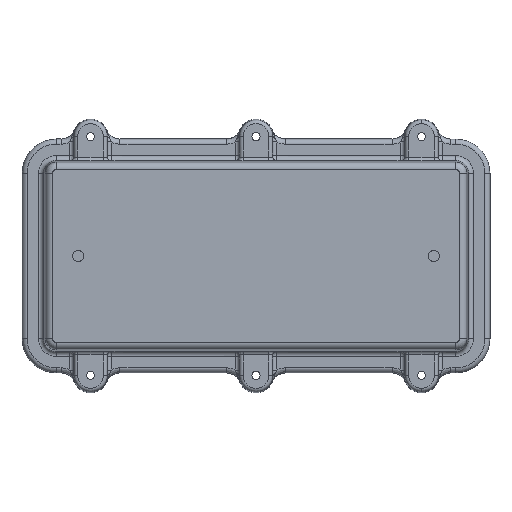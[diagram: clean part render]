
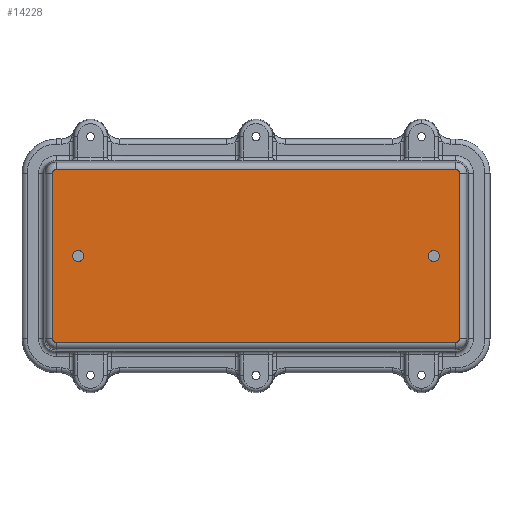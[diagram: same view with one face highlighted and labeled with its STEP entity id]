
A CAD part, front view. The second image highlights one B-rep face of the part: STEP entity #14228.
In plain terms, the highlighted planar face has unit normal (0, -1, 0).
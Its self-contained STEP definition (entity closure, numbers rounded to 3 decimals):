
#111 = EDGE_CURVE ( 'NONE', #28662, #22018, #26266, .T. ) ;
#322 = ORIENTED_EDGE ( 'NONE', *, *, #6610, .T. ) ;
#421 = CIRCLE ( 'NONE', #24519, 1.407 ) ;
#802 = ORIENTED_EDGE ( 'NONE', *, *, #11835, .T. ) ;
#909 = CARTESIAN_POINT ( 'NONE',  ( -82., -52., -34. ) ) ;
#1181 = CARTESIAN_POINT ( 'NONE',  ( -82., -52., -35.407 ) ) ;
#1335 = VERTEX_POINT ( 'NONE', #17287 ) ;
#1755 = CARTESIAN_POINT ( 'NONE',  ( -83.407, -52., 34. ) ) ;
#1760 = DIRECTION ( 'NONE',  ( 0., 0., -1. ) ) ;
#1769 = CARTESIAN_POINT ( 'NONE',  ( 73., -52., -2.35 ) ) ;
#2756 = AXIS2_PLACEMENT_3D ( 'NONE', #24100, #31685, #3470 ) ;
#2931 = CARTESIAN_POINT ( 'NONE',  ( 82., -52., -35.407 ) ) ;
#2935 = DIRECTION ( 'NONE',  ( 0., -1., 0. ) ) ;
#3098 = CIRCLE ( 'NONE', #2756, 1.407 ) ;
#3309 = CIRCLE ( 'NONE', #14472, 2.35 ) ;
#3404 = FACE_OUTER_BOUND ( 'NONE', #8844, .T. ) ;
#3447 = EDGE_CURVE ( 'NONE', #20456, #1335, #3309, .T. ) ;
#3470 = DIRECTION ( 'NONE',  ( 0., 0., -1. ) ) ;
#3609 = VECTOR ( 'NONE', #8457, 1000. ) ;
#4347 = DIRECTION ( 'NONE',  ( 0., -1., 0. ) ) ;
#4672 = CIRCLE ( 'NONE', #17831, 2.35 ) ;
#5193 = EDGE_CURVE ( 'NONE', #31756, #25976, #11228, .T. ) ;
#5871 = DIRECTION ( 'NONE',  ( 0., -1., 0. ) ) ;
#5902 = AXIS2_PLACEMENT_3D ( 'NONE', #21584, #21806, #6463 ) ;
#5913 = EDGE_CURVE ( 'NONE', #18639, #20848, #421, .T. ) ;
#6102 = DIRECTION ( 'NONE',  ( 0., 0., -1. ) ) ;
#6463 = DIRECTION ( 'NONE',  ( 0., 0., -1. ) ) ;
#6610 = EDGE_CURVE ( 'NONE', #22018, #18639, #22107, .T. ) ;
#6808 = CARTESIAN_POINT ( 'NONE',  ( 83.407, -52., -34. ) ) ;
#7674 = AXIS2_PLACEMENT_3D ( 'NONE', #30075, #14775, #32670 ) ;
#7906 = CARTESIAN_POINT ( 'NONE',  ( 83.407, -52., 34. ) ) ;
#8457 = DIRECTION ( 'NONE',  ( -1., 0., 0. ) ) ;
#8694 = DIRECTION ( 'NONE',  ( 0., 0., -1. ) ) ;
#8844 = EDGE_LOOP ( 'NONE', ( #25119, #11177, #12718, #802, #17944, #322, #25736, #18619 ) ) ;
#9096 = EDGE_CURVE ( 'NONE', #21219, #20638, #22398, .T. ) ;
#9386 = CARTESIAN_POINT ( 'NONE',  ( 83.407, -52., 34. ) ) ;
#10905 = CIRCLE ( 'NONE', #7674, 2.35 ) ;
#11177 = ORIENTED_EDGE ( 'NONE', *, *, #5193, .T. ) ;
#11228 = LINE ( 'NONE', #21546, #3609 ) ;
#11344 = EDGE_LOOP ( 'NONE', ( #13838, #19305 ) ) ;
#11434 = LINE ( 'NONE', #12662, #27791 ) ;
#11835 = EDGE_CURVE ( 'NONE', #27204, #28662, #11434, .T. ) ;
#11995 = CARTESIAN_POINT ( 'NONE',  ( -82., -52., 34. ) ) ;
#12008 = CARTESIAN_POINT ( 'NONE',  ( 82., -52., 35.407 ) ) ;
#12662 = CARTESIAN_POINT ( 'NONE',  ( -83.407, -52., -34. ) ) ;
#12718 = ORIENTED_EDGE ( 'NONE', *, *, #26891, .T. ) ;
#12897 = DIRECTION ( 'NONE',  ( 0., 0., -1. ) ) ;
#12965 = DIRECTION ( 'NONE',  ( 0., 0., -1. ) ) ;
#13838 = ORIENTED_EDGE ( 'NONE', *, *, #20267, .F. ) ;
#14228 = ADVANCED_FACE ( 'NONE', ( #16280, #30612, #3404 ), #14261, .T. ) ;
#14261 = PLANE ( 'NONE',  #30835 ) ;
#14472 = AXIS2_PLACEMENT_3D ( 'NONE', #24939, #14757, #32648 ) ;
#14481 = LINE ( 'NONE', #9386, #18055 ) ;
#14757 = DIRECTION ( 'NONE',  ( 0., -1., 0. ) ) ;
#14775 = DIRECTION ( 'NONE',  ( 0., -1., 0. ) ) ;
#14803 = DIRECTION ( 'NONE',  ( 0., 0., 1. ) ) ;
#15457 = CARTESIAN_POINT ( 'NONE',  ( -73., -52., -2.35 ) ) ;
#15718 = EDGE_CURVE ( 'NONE', #1335, #20456, #4672, .T. ) ;
#16280 = FACE_BOUND ( 'NONE', #11344, .T. ) ;
#17134 = DIRECTION ( 'NONE',  ( 1., 0., 0. ) ) ;
#17287 = CARTESIAN_POINT ( 'NONE',  ( 73., -52., 2.35 ) ) ;
#17306 = VECTOR ( 'NONE', #17134, 1000. ) ;
#17831 = AXIS2_PLACEMENT_3D ( 'NONE', #22527, #4347, #14803 ) ;
#17944 = ORIENTED_EDGE ( 'NONE', *, *, #111, .T. ) ;
#18055 = VECTOR ( 'NONE', #29842, 1000. ) ;
#18099 = CARTESIAN_POINT ( 'NONE',  ( -73., -52., 2.35 ) ) ;
#18619 = ORIENTED_EDGE ( 'NONE', *, *, #33019, .T. ) ;
#18639 = VERTEX_POINT ( 'NONE', #2931 ) ;
#18708 = CARTESIAN_POINT ( 'NONE',  ( -82., -52., 35.407 ) ) ;
#19305 = ORIENTED_EDGE ( 'NONE', *, *, #9096, .F. ) ;
#19409 = EDGE_LOOP ( 'NONE', ( #26845, #23821 ) ) ;
#20267 = EDGE_CURVE ( 'NONE', #20638, #21219, #10905, .T. ) ;
#20456 = VERTEX_POINT ( 'NONE', #1769 ) ;
#20638 = VERTEX_POINT ( 'NONE', #15457 ) ;
#20848 = VERTEX_POINT ( 'NONE', #6808 ) ;
#21093 = CARTESIAN_POINT ( 'NONE',  ( 82., -52., -34. ) ) ;
#21219 = VERTEX_POINT ( 'NONE', #18099 ) ;
#21461 = CARTESIAN_POINT ( 'NONE',  ( 82., -52., 34. ) ) ;
#21546 = CARTESIAN_POINT ( 'NONE',  ( -82., -52., 35.407 ) ) ;
#21584 = CARTESIAN_POINT ( 'NONE',  ( -73., -52., 0. ) ) ;
#21686 = DIRECTION ( 'NONE',  ( 0., -1., 0. ) ) ;
#21806 = DIRECTION ( 'NONE',  ( 0., -1., 0. ) ) ;
#22018 = VERTEX_POINT ( 'NONE', #1181 ) ;
#22107 = LINE ( 'NONE', #29526, #17306 ) ;
#22163 = VERTEX_POINT ( 'NONE', #7906 ) ;
#22398 = CIRCLE ( 'NONE', #5902, 2.35 ) ;
#22527 = CARTESIAN_POINT ( 'NONE',  ( 73., -52., 0. ) ) ;
#23821 = ORIENTED_EDGE ( 'NONE', *, *, #15718, .F. ) ;
#24100 = CARTESIAN_POINT ( 'NONE',  ( -82., -52., 34. ) ) ;
#24514 = CARTESIAN_POINT ( 'NONE',  ( -83.407, -52., -34. ) ) ;
#24519 = AXIS2_PLACEMENT_3D ( 'NONE', #21093, #2935, #12965 ) ;
#24939 = CARTESIAN_POINT ( 'NONE',  ( 73., -52., 0. ) ) ;
#24981 = DIRECTION ( 'NONE',  ( 0., -1., 0. ) ) ;
#25119 = ORIENTED_EDGE ( 'NONE', *, *, #31149, .T. ) ;
#25455 = AXIS2_PLACEMENT_3D ( 'NONE', #21461, #21686, #8694 ) ;
#25736 = ORIENTED_EDGE ( 'NONE', *, *, #5913, .T. ) ;
#25976 = VERTEX_POINT ( 'NONE', #18708 ) ;
#26266 = CIRCLE ( 'NONE', #27836, 1.407 ) ;
#26845 = ORIENTED_EDGE ( 'NONE', *, *, #3447, .F. ) ;
#26891 = EDGE_CURVE ( 'NONE', #25976, #27204, #3098, .T. ) ;
#27204 = VERTEX_POINT ( 'NONE', #1755 ) ;
#27791 = VECTOR ( 'NONE', #12897, 1000. ) ;
#27836 = AXIS2_PLACEMENT_3D ( 'NONE', #909, #5871, #6102 ) ;
#28662 = VERTEX_POINT ( 'NONE', #24514 ) ;
#29526 = CARTESIAN_POINT ( 'NONE',  ( 82., -52., -35.407 ) ) ;
#29842 = DIRECTION ( 'NONE',  ( 0., 0., 1. ) ) ;
#30075 = CARTESIAN_POINT ( 'NONE',  ( -73., -52., 0. ) ) ;
#30612 = FACE_BOUND ( 'NONE', #19409, .T. ) ;
#30835 = AXIS2_PLACEMENT_3D ( 'NONE', #11995, #24981, #1760 ) ;
#31149 = EDGE_CURVE ( 'NONE', #22163, #31756, #31344, .T. ) ;
#31344 = CIRCLE ( 'NONE', #25455, 1.407 ) ;
#31685 = DIRECTION ( 'NONE',  ( 0., -1., 0. ) ) ;
#31756 = VERTEX_POINT ( 'NONE', #12008 ) ;
#32648 = DIRECTION ( 'NONE',  ( 0., 0., 1. ) ) ;
#32670 = DIRECTION ( 'NONE',  ( 0., 0., -1. ) ) ;
#33019 = EDGE_CURVE ( 'NONE', #20848, #22163, #14481, .T. ) ;
